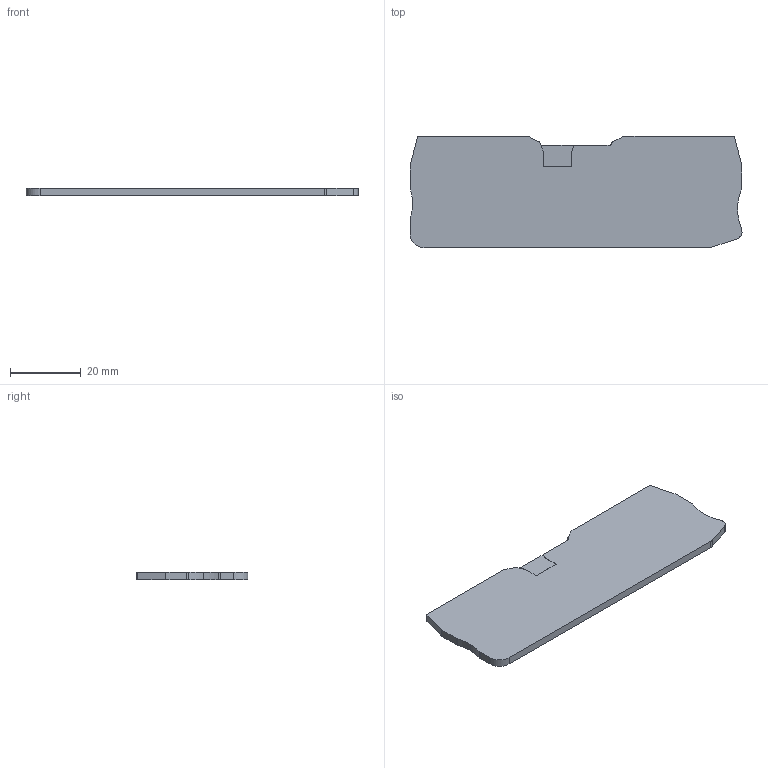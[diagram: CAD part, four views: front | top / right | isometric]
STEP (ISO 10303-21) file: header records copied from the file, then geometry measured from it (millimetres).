
FILE_DESCRIPTION(('SolidDesigner STEP Export'),'2;1');
FILE_NAME('3205174_d_qtc15quattro-select.stp','2004-02-10T 8:27:47',(''),(''),'OneSpaceDesigner STEP processor Version: 9.0 (March 2001)for AP203(Solid Model)','CoCreate OneSpaceDesigner: 11.50A 18-Jul-2002(C) CoCreate Software GmbH','');
FILE_SCHEMA(('CONFIG_CONTROL_DESIGN'));
Length unit declared in the file: millimetre
Products named in the file (2): 3205174_d_qtc15quattro-select
Assembly tree (1 placements, depth 2):
  3205174_d_qtc15quattro-select
    3205174_d_qtc15quattro-select
Bounding box: 94 x 31.55 x 2.2 mm (x, y, z)
Volume: 6270.1 mm3; surface area: 6260.8 mm2
Topology: 1 solids, 1 shells, 47 faces, 135 edges, 90 vertices
Faces by surface type: plane 27, cylinder 20
Entity records: 2097 total; most frequent: ORIENTED_EDGE 270, CARTESIAN_POINT 264, DIRECTION 253, EDGE_CURVE 135, VECTOR 95, LINE 95, VERTEX_POINT 90, AXIS2_PLACEMENT_3D 79
